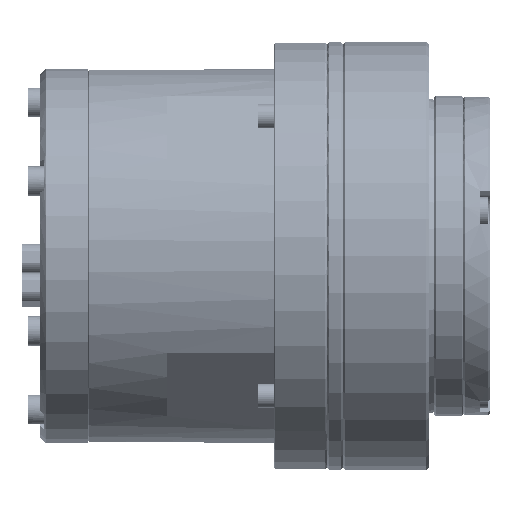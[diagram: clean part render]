
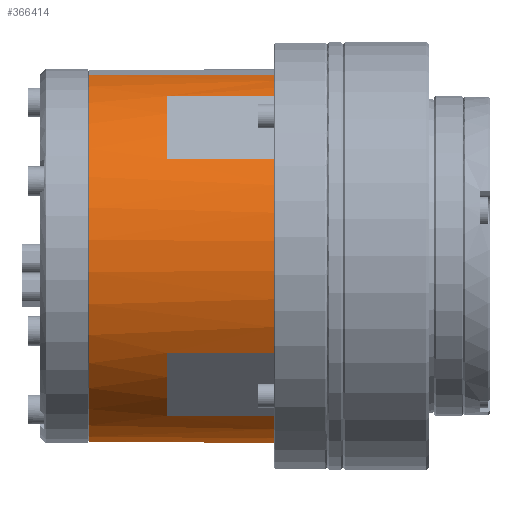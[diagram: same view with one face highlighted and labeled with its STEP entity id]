
A CAD part, front view. The second image highlights one B-rep face of the part: STEP entity #366414.
In plain terms, the highlighted cylindrical face has radius 35 mm (diameter 70 mm), a partial arc.
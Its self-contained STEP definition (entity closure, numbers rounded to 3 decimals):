
#3074 = CARTESIAN_POINT ( 'NONE',  ( -63.5, -9.059, 33.807 ) ) ;
#8296 = CIRCLE ( 'NONE', #152148, 35. ) ;
#9510 = AXIS2_PLACEMENT_3D ( 'NONE', #125340, #185425, #39013 ) ;
#9572 = CARTESIAN_POINT ( 'NONE',  ( -19., -29.915, 18.168 ) ) ;
#10601 = AXIS2_PLACEMENT_3D ( 'NONE', #366713, #274851, #103969 ) ;
#10895 = ORIENTED_EDGE ( 'NONE', *, *, #100128, .T. ) ;
#11791 = CARTESIAN_POINT ( 'NONE',  ( -19., -18.168, 29.915 ) ) ;
#23144 = DIRECTION ( 'NONE',  ( 1., 0., 0. ) ) ;
#27099 = VERTEX_POINT ( 'NONE', #308805 ) ;
#28441 = AXIS2_PLACEMENT_3D ( 'NONE', #320664, #177982, #206145 ) ;
#31494 = DIRECTION ( 'NONE',  ( 1., 0., 0. ) ) ;
#32570 = ORIENTED_EDGE ( 'NONE', *, *, #232599, .F. ) ;
#39013 = DIRECTION ( 'NONE',  ( 0., 0.259, -0.966 ) ) ;
#51356 = CARTESIAN_POINT ( 'NONE',  ( -29., 0., 0. ) ) ;
#55610 = VERTEX_POINT ( 'NONE', #274007 ) ;
#61507 = VECTOR ( 'NONE', #73948, 1000. ) ;
#67247 = ORIENTED_EDGE ( 'NONE', *, *, #210133, .F. ) ;
#71698 = CARTESIAN_POINT ( 'NONE',  ( -29., -29.915, -18.168 ) ) ;
#73948 = DIRECTION ( 'NONE',  ( -1., 0., 0. ) ) ;
#75562 = LINE ( 'NONE', #11791, #321546 ) ;
#76128 = ORIENTED_EDGE ( 'NONE', *, *, #94679, .F. ) ;
#76233 = ORIENTED_EDGE ( 'NONE', *, *, #89884, .F. ) ;
#83166 = CARTESIAN_POINT ( 'NONE',  ( -29., -29.915, 18.168 ) ) ;
#85512 = EDGE_CURVE ( 'NONE', #350542, #184056, #349393, .T. ) ;
#88452 = ORIENTED_EDGE ( 'NONE', *, *, #104849, .F. ) ;
#89884 = EDGE_CURVE ( 'NONE', #338911, #93249, #140335, .T. ) ;
#93249 = VERTEX_POINT ( 'NONE', #71698 ) ;
#93988 = CARTESIAN_POINT ( 'NONE',  ( -49., -18.168, -29.915 ) ) ;
#94679 = EDGE_CURVE ( 'NONE', #93249, #352595, #284750, .T. ) ;
#99560 = CIRCLE ( 'NONE', #9510, 35. ) ;
#100128 = EDGE_CURVE ( 'NONE', #55610, #361857, #99560, .T. ) ;
#103969 = DIRECTION ( 'NONE',  ( 0., 0.259, -0.966 ) ) ;
#104414 = AXIS2_PLACEMENT_3D ( 'NONE', #147808, #31494, #177866 ) ;
#104849 = EDGE_CURVE ( 'NONE', #349837, #347894, #157424, .T. ) ;
#106802 = VECTOR ( 'NONE', #268633, 1000. ) ;
#125340 = CARTESIAN_POINT ( 'NONE',  ( -49., 0., 0. ) ) ;
#137142 = DIRECTION ( 'NONE',  ( 0., -0.259, 0.966 ) ) ;
#140335 = CIRCLE ( 'NONE', #104414, 35. ) ;
#147808 = CARTESIAN_POINT ( 'NONE',  ( -29., 0., 0. ) ) ;
#152148 = AXIS2_PLACEMENT_3D ( 'NONE', #278014, #366178, #137142 ) ;
#152199 = LINE ( 'NONE', #9572, #106802 ) ;
#157424 = LINE ( 'NONE', #217488, #182852 ) ;
#162788 = CIRCLE ( 'NONE', #210741, 35. ) ;
#173153 = ORIENTED_EDGE ( 'NONE', *, *, #256350, .T. ) ;
#177866 = DIRECTION ( 'NONE',  ( 0., -0.259, 0.966 ) ) ;
#177982 = DIRECTION ( 'NONE',  ( -1., 0., 0. ) ) ;
#182852 = VECTOR ( 'NONE', #333838, 1000. ) ;
#184056 = VERTEX_POINT ( 'NONE', #193044 ) ;
#184549 = CIRCLE ( 'NONE', #10601, 35. ) ;
#185425 = DIRECTION ( 'NONE',  ( -1., 0., 0. ) ) ;
#193044 = CARTESIAN_POINT ( 'NONE',  ( -29., -18.168, 29.915 ) ) ;
#193139 = VERTEX_POINT ( 'NONE', #93988 ) ;
#194680 = CARTESIAN_POINT ( 'NONE',  ( -19., -29.915, -18.168 ) ) ;
#194742 = VECTOR ( 'NONE', #252870, 1000. ) ;
#206145 = DIRECTION ( 'NONE',  ( 0., 0.259, -0.966 ) ) ;
#210133 = EDGE_CURVE ( 'NONE', #193139, #27099, #226485, .T. ) ;
#210741 = AXIS2_PLACEMENT_3D ( 'NONE', #295397, #327244, #240903 ) ;
#217488 = CARTESIAN_POINT ( 'NONE',  ( -19., 9.059, -33.807 ) ) ;
#220242 = CARTESIAN_POINT ( 'NONE',  ( -29., -9.059, 33.807 ) ) ;
#221446 = ORIENTED_EDGE ( 'NONE', *, *, #327468, .T. ) ;
#226485 = LINE ( 'NONE', #337274, #245219 ) ;
#229665 = AXIS2_PLACEMENT_3D ( 'NONE', #51356, #23144, #250351 ) ;
#232599 = EDGE_CURVE ( 'NONE', #27099, #349837, #8296, .T. ) ;
#240903 = DIRECTION ( 'NONE',  ( 0., 0.259, -0.966 ) ) ;
#243535 = ORIENTED_EDGE ( 'NONE', *, *, #307936, .F. ) ;
#245219 = VECTOR ( 'NONE', #254669, 1000. ) ;
#246068 = EDGE_CURVE ( 'NONE', #184056, #361857, #75562, .T. ) ;
#248427 = ORIENTED_EDGE ( 'NONE', *, *, #324906, .T. ) ;
#250351 = DIRECTION ( 'NONE',  ( 0., -0.259, 0.966 ) ) ;
#252185 = CARTESIAN_POINT ( 'NONE',  ( -19., -9.059, 33.807 ) ) ;
#252870 = DIRECTION ( 'NONE',  ( -1., 0., 0. ) ) ;
#254669 = DIRECTION ( 'NONE',  ( 1., 0., 0. ) ) ;
#256350 = EDGE_CURVE ( 'NONE', #261341, #347894, #184549, .T. ) ;
#260053 = CARTESIAN_POINT ( 'NONE',  ( -49., -29.915, -18.168 ) ) ;
#261341 = VERTEX_POINT ( 'NONE', #3074 ) ;
#268633 = DIRECTION ( 'NONE',  ( 1., 0., 0. ) ) ;
#269126 = CARTESIAN_POINT ( 'NONE',  ( -49., -18.168, 29.915 ) ) ;
#274007 = CARTESIAN_POINT ( 'NONE',  ( -49., -29.915, 18.168 ) ) ;
#274798 = LINE ( 'NONE', #252185, #61507 ) ;
#274851 = DIRECTION ( 'NONE',  ( 1., 0., 0. ) ) ;
#278014 = CARTESIAN_POINT ( 'NONE',  ( -29., 0., 0. ) ) ;
#284750 = LINE ( 'NONE', #194680, #194742 ) ;
#287004 = FACE_OUTER_BOUND ( 'NONE', #338480, .T. ) ;
#295397 = CARTESIAN_POINT ( 'NONE',  ( -49., 0., 0. ) ) ;
#307936 = EDGE_CURVE ( 'NONE', #55610, #338911, #152199, .T. ) ;
#308805 = CARTESIAN_POINT ( 'NONE',  ( -29., -18.168, -29.915 ) ) ;
#311966 = ORIENTED_EDGE ( 'NONE', *, *, #246068, .F. ) ;
#320664 = CARTESIAN_POINT ( 'NONE',  ( -19., 0., 0. ) ) ;
#321546 = VECTOR ( 'NONE', #330894, 1000. ) ;
#322501 = CYLINDRICAL_SURFACE ( 'NONE', #28441, 35. ) ;
#324906 = EDGE_CURVE ( 'NONE', #193139, #352595, #162788, .T. ) ;
#327244 = DIRECTION ( 'NONE',  ( -1., 0., 0. ) ) ;
#327468 = EDGE_CURVE ( 'NONE', #350542, #261341, #274798, .T. ) ;
#327684 = ORIENTED_EDGE ( 'NONE', *, *, #85512, .F. ) ;
#330894 = DIRECTION ( 'NONE',  ( -1., 0., 0. ) ) ;
#333838 = DIRECTION ( 'NONE',  ( -1., 0., 0. ) ) ;
#337274 = CARTESIAN_POINT ( 'NONE',  ( -19., -18.168, -29.915 ) ) ;
#338480 = EDGE_LOOP ( 'NONE', ( #327684, #221446, #173153, #88452, #32570, #67247, #248427, #76128, #76233, #243535, #10895, #311966 ) ) ;
#338911 = VERTEX_POINT ( 'NONE', #83166 ) ;
#347894 = VERTEX_POINT ( 'NONE', #361078 ) ;
#349393 = CIRCLE ( 'NONE', #229665, 35. ) ;
#349837 = VERTEX_POINT ( 'NONE', #355649 ) ;
#350542 = VERTEX_POINT ( 'NONE', #220242 ) ;
#352595 = VERTEX_POINT ( 'NONE', #260053 ) ;
#355649 = CARTESIAN_POINT ( 'NONE',  ( -29., 9.059, -33.807 ) ) ;
#361078 = CARTESIAN_POINT ( 'NONE',  ( -63.5, 9.059, -33.807 ) ) ;
#361857 = VERTEX_POINT ( 'NONE', #269126 ) ;
#366178 = DIRECTION ( 'NONE',  ( 1., 0., 0. ) ) ;
#366414 = ADVANCED_FACE ( 'NONE', ( #287004 ), #322501, .T. ) ;
#366713 = CARTESIAN_POINT ( 'NONE',  ( -63.5, 0., 0. ) ) ;
